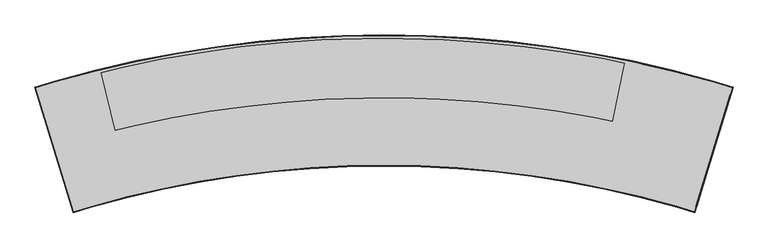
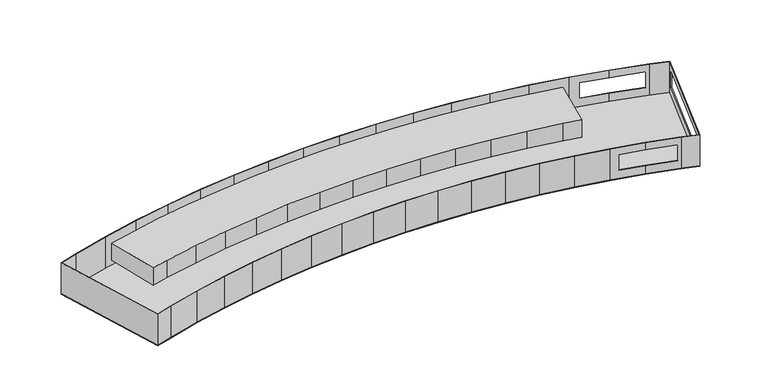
"""IFC4 building model written with IfcOpenShell, lengths in millimetres: proxy geometry, Techno_Конвектор встраиваемый_Usual_KVZ_R-250_85 : KVZ R 250-85_П."""

from ifc_helpers import new_model, si_unit, frame, origin, place, context, project, spatial, polyline, outline, extrude, faceted_brep, source, transform, mapped, element, save


def mechanical_equipment_28dde919(model_context):
    return source(origin(), model_context, "Body", "SolidModel", [
        extrude(outline(polyline([(904.0959023, 63.2017392), (883.9153239, -34.7408167), (852.1753011, -28.2009423), (788.2865967, -17.2908792), (724.063369, -8.5631618), (659.5801416, -2.0279176), (594.9117399, 2.3072701), (530.1332041, 4.4373706), (465.3197023, 4.3599123), (400.5464428, 2.0749851), (335.8885878, -2.4147597), (271.4211651, -9.1041121), (207.2189817, -17.9853101), (143.3565369, -29.0480479), (79.9079356, -42.2794886), (48.4273691, -49.9718836), (24.6903721, 47.1700485), (57.8257203, 55.2667956), (124.6095087, 69.1937494), (191.8288945, 80.8380021), (259.4058773, 90.1860418), (327.2620417, 97.2270213), (395.3186486, 101.9527703), (463.4967261, 104.3578051), (531.7171615, 104.439335), (599.9007927, 102.1972653), (667.9685006, 97.6341978), (735.8413005, 90.7554273), (803.4404338, 81.5689358), (870.6874595, 70.0853833), (904.0959023, 63.2017392)])), frame((0.0, 0.0, -69.8), z_axis=(0.0, 0.0, 1.0), x_axis=(1.0, 0.0, 0.0)), (0.0, 0.0, 1.0), 35.0),
        extrude(outline(polyline([(1086.9166428, 22.5197459), (1022.5025267, -188.257344), (992.670603, -179.1406179), (932.4069846, -162.9996836), (871.6169593, -148.9709168), (810.3745323, -137.0713961), (748.7542592, -127.3156078), (686.8311557, -119.7154284), (624.6806064, -114.2801103), (562.3782725, -111.0162705), (500.0, -109.9278822), (437.6217275, -111.0162705), (375.3193936, -114.2801103), (313.1688443, -119.7154284), (251.2457408, -127.3156078), (189.6254677, -137.0713961), (128.3830407, -148.9709168), (67.5930154, -162.9996836), (7.329397, -179.1406179), (-22.5025267, -188.257344), (-86.9166428, 22.5197459), (-53.4070393, 32.7603821), (14.2858785, 50.891171), (82.5700986, 66.6494042), (151.3624926, 80.015898), (220.5793135, 90.97438), (290.1362977, 99.5115095), (359.9487673, 105.6168936), (429.9317335, 109.2830997), (500.0, 110.5056645), (570.0682665, 109.2830997), (640.0512327, 105.6168936), (709.8637023, 99.5115095), (779.4206865, 90.97438), (848.6375074, 80.015898), (917.4299014, 66.6494042), (985.7141215, 50.891171), (1053.4070393, 32.7603821), (1086.9166428, 22.5197459)])), frame((0.0, 0.0, -85.0), z_axis=(0.0, 0.0, 1.0), x_axis=(1.0, 0.0, 0.0)), (0.0, 0.0, 1.0), 1.2),
        faceted_brep([(-86.9166428, 22.5197459, -20.5), (-86.9166428, 22.5197459, -85.0), (-22.5025267, -188.257344, -85.0), (-22.5025267, -188.257344, -20.5), (1022.5025267, -188.257344, -20.5), (1022.5025267, -188.257344, -85.0), (1086.9166428, 22.5197459, -85.0), (1086.9166428, 22.5197459, -20.5), (1025.4835792, -178.5026874, -33.0), (1083.2341661, 10.469876, -33.0), (1083.2341661, 10.469876, -65.0), (1025.4835792, -178.5026874, -65.0), (-85.4183241, 21.7228513, -85.0), (-85.4183241, 21.7228513, -20.5), (-21.7056321, -186.7590253, -20.5), (-21.7056321, -186.7590253, -85.0), (1021.7056321, -186.7590253, -85.0), (1021.7056321, -186.7590253, -20.5), (1085.4183241, 21.7228513, -20.5), (1085.4183241, 21.7228513, -85.0), (1082.0865595, 10.820588, -33.0), (1024.3359726, -178.1519754, -33.0), (1024.3359726, -178.1519754, -65.0), (1082.0865595, 10.820588, -65.0), (7.329397, -179.1406179, -85.0), (7.329397, -179.1406179, -20.5), (6.978685, -177.9930113, -20.5), (6.978685, -177.9930113, -85.0), (67.5930154, -162.9996836, -85.0), (67.5930154, -162.9996836, -20.5), (67.282552, -161.8405406, -20.5), (67.282552, -161.8405406, -85.0), (128.3830407, -148.9709168, -85.0), (128.3830407, -148.9709168, -20.5), (128.1132038, -147.8016486, -20.5), (128.1132038, -147.8016486, -85.0), (189.6254677, -137.0713961, -85.0), (189.6254677, -137.0713961, -20.5), (189.3965859, -135.8934262, -20.5), (189.3965859, -135.8934262, -85.0), (251.2457408, -127.3156078, -85.0), (251.2457408, -127.3156078, -20.5), (251.0580927, -126.1303702, -20.5), (251.0580927, -126.1303702, -85.0), (313.1688443, -119.7154284, -85.0), (313.1688443, -119.7154284, -20.5), (313.0226583, -118.524366, -20.5), (313.0226583, -118.524366, -85.0), (375.3193936, -114.2801103, -85.0), (375.3193936, -114.2801103, -20.5), (375.2148478, -113.0846731, -20.5), (375.2148478, -113.0846731, -85.0), (437.6217275, -111.0162705, -85.0), (437.6217275, -111.0162705, -20.5), (437.5589491, -109.8179138, -20.5), (437.5589491, -109.8179138, -85.0), (500.0, -109.9278822, -85.0), (500.0, -109.9278822, -20.5), (499.9790654, -108.7280648, -20.5), (499.9790654, -108.7280648, -85.0), (562.3782725, -111.0162705, -85.0), (562.3782725, -111.0162705, -20.5), (562.3992071, -109.8164531, -20.5), (562.3992071, -109.8164531, -85.0), (1053.4070393, 32.7603821, -85.0), (1053.4070393, 32.7603821, -20.5), (1053.0563272, 31.6127754, -20.5), (1053.0563272, 31.6127754, -85.0), (985.7141215, 50.891171, -85.0), (985.7141215, 50.891171, -67.0), (1046.7669959, 34.5388432, -67.0), (1046.7669959, 34.5388432, -35.0), (985.7141215, 50.891171, -35.0), (985.7141215, 50.891171, -20.5), (985.4036581, 49.732028, -20.5), (985.4036581, 49.732028, -35.0), (1046.4402753, 33.3840546, -35.0), (1046.4402753, 33.3840546, -67.0), (985.4036581, 49.732028, -67.0), (985.4036581, 49.732028, -85.0), (917.4299014, 66.6494042, -85.0), (917.4299014, 66.6494042, -20.5), (934.7189197, 62.6595456, -35.0), (934.7189197, 62.6595456, -67.0), (917.1600645, 65.4801361, -20.5), (917.1600645, 65.4801361, -85.0), (934.4591533, 61.4879534, -67.0), (934.4591533, 61.4879534, -35.0), (848.6375074, 80.015898, -85.0), (848.6375074, 80.015898, -20.5), (848.4086256, 78.837928, -20.5), (848.4086256, 78.837928, -85.0), (779.4206865, 90.97438, -85.0), (779.4206865, 90.97438, -20.5), (779.2330384, 89.7891423, -20.5), (779.2330384, 89.7891423, -85.0), (709.8637023, 99.5115095, -85.0), (709.8637023, 99.5115095, -20.5), (709.7175163, 98.3204471, -20.5), (709.7175163, 98.3204471, -85.0), (640.0512327, 105.6168936, -85.0), (640.0512327, 105.6168936, -20.5), (639.9466868, 104.4214564, -20.5), (639.9466868, 104.4214564, -85.0), (570.0682665, 109.2830997, -85.0), (570.0682665, 109.2830997, -20.5), (570.005488, 108.0847429, -20.5), (570.005488, 108.0847429, -85.0), (500.0, 110.5056645, -85.0), (500.0, 110.5056645, -20.5), (499.9790654, 109.3058471, -20.5), (499.9790654, 109.3058471, -85.0), (429.9317335, 109.2830997, -85.0), (429.9317335, 109.2830997, -20.5), (429.9526682, 108.0832823, -20.5), (429.9526682, 108.0832823, -85.0), (986.7593045, -177.5573429, -35.0), (987.0860251, -176.4025542, -35.0), (987.0860251, -176.4025542, -67.0), (986.7593045, -177.5573429, -67.0), (932.6769858, -161.8297032, -67.0), (887.2682737, -151.3512961, -67.0), (887.0085074, -152.5228883, -67.0), (932.4069846, -162.9996836, -67.0), (932.4069846, -162.9996836, -35.0), (887.0085074, -152.5228883, -35.0), (887.2682737, -151.3512961, -35.0), (932.6768214, -161.8304154, -35.0), (624.6806064, -114.2801103, -85.0), (624.6806064, -114.2801103, -20.5), (624.7433849, -113.0817536, -20.5), (624.7433849, -113.0817536, -85.0), (686.8311557, -119.7154284, -85.0), (686.8311557, -119.7154284, -20.5), (686.9357016, -118.5199912, -20.5), (686.9357016, -118.5199912, -85.0), (748.7542592, -127.3156078, -85.0), (748.7542592, -127.3156078, -20.5), (748.9004451, -126.1245454, -20.5), (748.9004451, -126.1245454, -85.0), (810.3745323, -137.0713961, -85.0), (810.3745323, -137.0713961, -20.5), (810.5621804, -135.8861585, -20.5), (810.5621804, -135.8861585, -85.0), (871.6169593, -148.9709168, -85.0), (871.6169593, -148.9709168, -20.5), (871.8458411, -147.7929469, -20.5), (871.8458411, -147.7929469, -85.0), (932.4069846, -162.9996836, -85.0), (932.4069846, -162.9996836, -20.5), (932.6768214, -161.8304154, -20.5), (932.6768214, -161.8304154, -85.0), (992.670603, -179.1406179, -85.0), (992.670603, -179.1406179, -20.5), (992.9810664, -177.9814749, -20.5), (992.9810664, -177.9814749, -85.0), (359.9487673, 105.6168936, -85.0), (359.9487673, 105.6168936, -20.5), (360.0115458, 104.4185369, -20.5), (360.0115458, 104.4185369, -85.0), (290.1362977, 99.5115095, -85.0), (290.1362977, 99.5115095, -20.5), (290.2408436, 98.3160723, -20.5), (290.2408436, 98.3160723, -85.0), (220.5793135, 90.97438, -85.0), (220.5793135, 90.97438, -20.5), (220.7254995, 89.7833175, -20.5), (220.7254995, 89.7833175, -85.0), (151.3624926, 80.015898, -85.0), (151.3624926, 80.015898, -20.5), (151.5501407, 78.8306604, -20.5), (151.5501407, 78.8306604, -85.0), (82.5700986, 66.6494042, -85.0), (82.5700986, 66.6494042, -20.5), (82.7989804, 65.4714343, -20.5), (82.7989804, 65.4714343, -85.0), (14.2858785, 50.891171, -85.0), (14.2858785, 50.891171, -20.5), (14.5557154, 49.7219028, -20.5), (14.5557154, 49.7219028, -85.0), (-53.4070393, 32.7603821, -85.0), (-53.4070393, 32.7603821, -20.5), (-53.0965759, 31.6012391, -20.5), (-53.0965759, 31.6012391, -85.0)], [[[0, 1, 2, 3]], [[4, 5, 6, 7], [8, 9, 10, 11]], [[12, 13, 14, 15]], [[16, 17, 18, 19], [20, 21, 22, 23]], [[3, 2, 24, 25]], [[15, 14, 26, 27]], [[25, 24, 28, 29]], [[27, 26, 30, 31]], [[29, 28, 32, 33]], [[31, 30, 34, 35]], [[33, 32, 36, 37]], [[35, 34, 38, 39]], [[37, 36, 40, 41]], [[39, 38, 42, 43]], [[41, 40, 44, 45]], [[43, 42, 46, 47]], [[45, 44, 48, 49]], [[47, 46, 50, 51]], [[49, 48, 52, 53]], [[51, 50, 54, 55]], [[53, 52, 56, 57]], [[55, 54, 58, 59]], [[57, 56, 60, 61]], [[59, 58, 62, 63]], [[7, 6, 64, 65]], [[19, 18, 66, 67]], [[65, 64, 68, 69, 70, 71, 72, 73]], [[67, 66, 74, 75, 76, 77, 78, 79]], [[68, 80, 81, 73, 72, 82, 83, 69]], [[74, 84, 85, 79, 78, 86, 87, 75]], [[81, 80, 88, 89]], [[85, 84, 90, 91]], [[89, 88, 92, 93]], [[91, 90, 94, 95]], [[93, 92, 96, 97]], [[95, 94, 98, 99]], [[97, 96, 100, 101]], [[99, 98, 102, 103]], [[101, 100, 104, 105]], [[103, 102, 106, 107]], [[105, 104, 108, 109]], [[107, 106, 110, 111]], [[109, 108, 112, 113]], [[111, 110, 114, 115]], [[20, 9, 8, 21]], [[21, 8, 11, 22]], [[22, 11, 10, 23]], [[9, 20, 23, 10]], [[116, 117, 118, 119]], [[76, 71, 70, 77]], [[119, 118, 120, 121, 122, 123]], [[77, 70, 69, 83, 86, 78]], [[117, 116, 124, 125, 126, 127]], [[71, 76, 75, 87, 82, 72]], [[122, 121, 126, 125]], [[86, 83, 82, 87]], [[61, 60, 128, 129]], [[63, 62, 130, 131]], [[129, 128, 132, 133]], [[131, 130, 134, 135]], [[133, 132, 136, 137]], [[135, 134, 138, 139]], [[137, 136, 140, 141]], [[139, 138, 142, 143]], [[141, 140, 144, 145]], [[143, 142, 146, 147]], [[145, 144, 148, 123, 122, 125, 124, 149]], [[147, 146, 150, 127, 126, 121, 120, 151]], [[148, 152, 153, 149, 124, 116, 119, 123]], [[150, 154, 155, 151, 120, 118, 117, 127]], [[113, 112, 156, 157]], [[115, 114, 158, 159]], [[157, 156, 160, 161]], [[159, 158, 162, 163]], [[161, 160, 164, 165]], [[163, 162, 166, 167]], [[165, 164, 168, 169]], [[167, 166, 170, 171]], [[169, 168, 172, 173]], [[171, 170, 174, 175]], [[173, 172, 176, 177]], [[175, 174, 178, 179]], [[177, 176, 180, 181]], [[179, 178, 182, 183]], [[5, 4, 153, 152]], [[17, 16, 155, 154]], [[1, 0, 181, 180]], [[13, 12, 183, 182]], [[0, 3, 25, 29, 33, 37, 41, 45, 49, 53, 57, 61, 129, 133, 137, 141, 145, 149, 153, 4, 7, 65, 73, 81, 89, 93, 97, 101, 105, 109, 113, 157, 161, 165, 169, 173, 177, 181], [14, 13, 182, 178, 174, 170, 166, 162, 158, 114, 110, 106, 102, 98, 94, 90, 84, 74, 66, 18, 17, 154, 150, 146, 142, 138, 134, 130, 62, 58, 54, 50, 46, 42, 38, 34, 30, 26]], [[2, 1, 180, 176, 172, 168, 164, 160, 156, 112, 108, 104, 100, 96, 92, 88, 80, 68, 64, 6, 5, 152, 148, 144, 140, 136, 132, 128, 60, 56, 52, 48, 44, 40, 36, 32, 28, 24], [12, 15, 27, 31, 35, 39, 43, 47, 51, 55, 59, 63, 131, 135, 139, 143, 147, 151, 155, 16, 19, 67, 79, 85, 91, 95, 99, 103, 107, 111, 115, 159, 163, 167, 171, 175, 179, 183]]]),
    ])


if __name__ == "__main__":
    model = new_model("IFC4")
    model_context = context("Model", 3, world=origin())
    ifc_project = project(units=[si_unit("LENGTHUNIT", "METRE", prefix="MILLI")], contexts=[model_context])
    site = spatial("IfcSite", under=ifc_project)
    building = spatial("IfcBuilding", under=site)
    placement = place(None, origin())
    mechanical_equipment_shape = mechanical_equipment_28dde919(model_context)
    element("IfcBuildingElementProxy", 1, Name="Techno_Конвектор встраиваемый_Usual_KVZ_R-250_85 : KVZ R 250-85_П", ObjectType="Techno_Конвектор встраиваемый_Usual_KVZ_R-250_85 : KVZ R 250-85_П", at=placement, inside=building, context=model_context, shape_type="MappedRepresentation", body=[
        mapped(mechanical_equipment_shape, transform((0.0, 0.0, 0.0), x_axis=(1.0, 0.0, 0.0), y_axis=(0.0, 1.0, 0.0), z_axis=(0.0, 0.0, 1.0))),
    ])
    save(model, "model.ifc")
